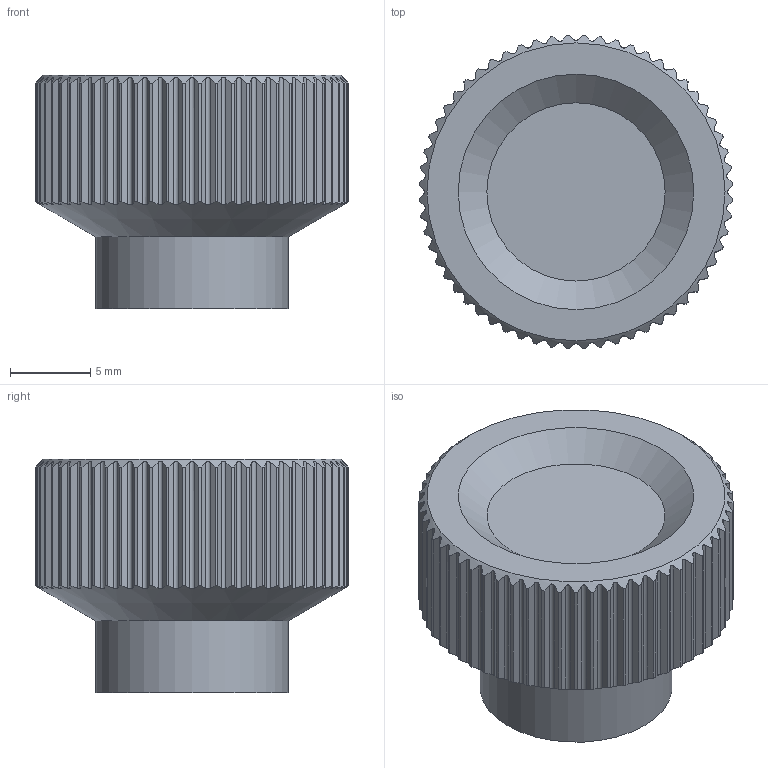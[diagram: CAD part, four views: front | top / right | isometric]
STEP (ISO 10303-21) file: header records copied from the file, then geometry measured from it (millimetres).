
FILE_DESCRIPTION( ('This file contains a STEP AP42 implementation' ,'as created by ZW3D STEP Interface translator.') ,'2;1' );
FILE_NAME( 'Pokretlo radelkowe 20 GW.stp' ,'26 7 6.1139 3', (''), ('ZWCAD Software Co.'), 'Version 1.0', 'ZW3D to STEP translator', '' );
FILE_SCHEMA(('AP242_MANAGED_MODEL_BASED_3D_ENGINEERING_MIM_LF { 1 0 10303 442 1 1 4 }'));
Length unit declared in the file: millimetre
Products named in the file (1): 0
Bounding box: 19.58 x 19.58 x 14.6 mm (x, y, z)
Volume: 2928.7 mm3; surface area: 2093.9 mm2
Topology: 2 solids, 2 shells, 254 faces, 742 edges, 494 vertices
Faces by surface type: plane 126, cylinder 124, cone 4
Full cylindrical faces by diameter (mm): 4.2 x1, 9 x2, 12 x1
Entity records: 9001 total; most frequent: CARTESIAN_POINT 2811, ORIENTED_EDGE 1484, DIRECTION 1022, EDGE_CURVE 742, VERTEX_POINT 494, AXIS2_PLACEMENT_3D 387, EDGE_LOOP 258, FACE_OUTER_BOUND 254
